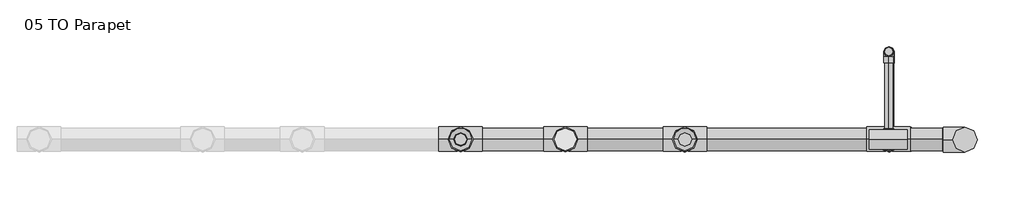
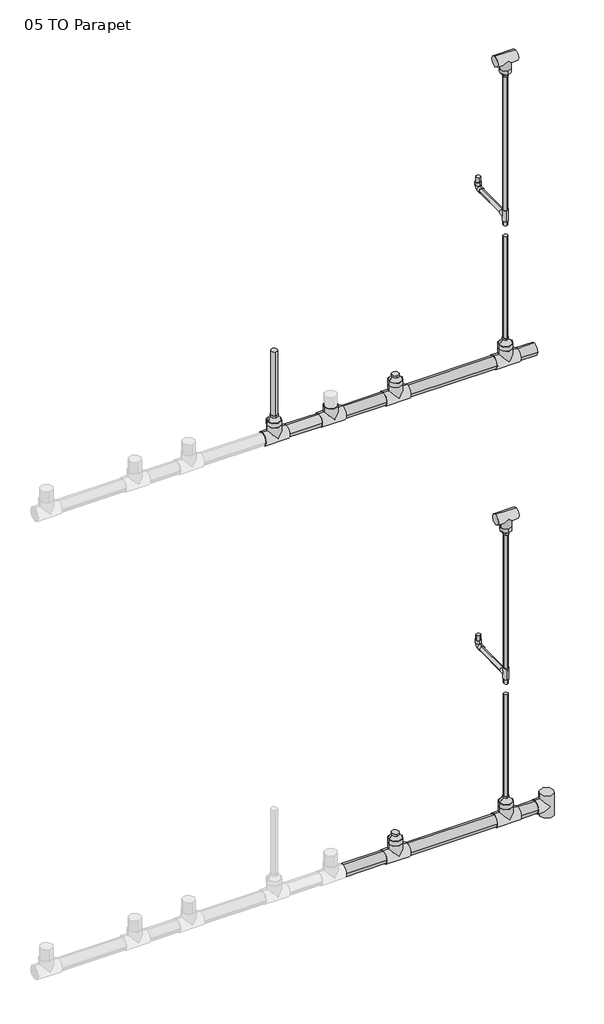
# One storey, part 2 of 2: 20 pipe fittings, 18 pipe segments.
"""IFC4 building model written with IfcOpenShell, lengths in millimetres."""

from ifc_helpers import new_model, si_unit, point, frame, frame_2d, origin, place, context, project, spatial, circle_curve, trimmed, segment, composite_curve, outline, extrude, transform, mapped, element, save
from components import elbow_pvc_sch_40_standard_2ea8bc13, reducer_pvc_sch_40_dwv_standard_07db09cb, reducer_pvc_sch_40_dwv_standard_9c0d98a8, reducer_pvc_sch_40_dwv_standard_cf29b970, tee_pvc_sch_40_standard_5c3f4d2b, tee_pvc_sch_40_standard_9c13fb8e, tee_pvc_sch_40_standard_9261842d

model = new_model("IFC4")

# Units and contexts
model_context = context("Model", 3, world=origin())
ifc_project = project(units=[si_unit("LENGTHUNIT", "METRE", prefix="MILLI")], contexts=[model_context])

# Site, building, storey
site = spatial("IfcSite", under=ifc_project)
building = spatial("IfcBuilding", under=site)
storey = spatial("IfcBuildingStorey", under=building, Name="05 TO Parapet", Elevation=15240.0)

# Pipe fittings
placement = place(None, origin())
elbow_pvc_sch_40_standard_shape = elbow_pvc_sch_40_standard_2ea8bc13(model_context)
element("IfcPipeFitting", 1, ObjectType="Elbow - PVC - Sch 40 : Standard", at=placement, inside=storey, context=model_context, shape_type="MappedRepresentation", body=[
    mapped(elbow_pvc_sch_40_standard_shape, transform((-12626.6118429, -3991.9703325, 5176.4703954), x_axis=(0.0, 0.9999457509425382, 0.010416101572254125), y_axis=(0.0, -0.010416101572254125, 0.9999457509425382), z_axis=(1.0, 0.0, 0.0))),
])
element("IfcPipeFitting", 2, ObjectType="Elbow - PVC - Sch 40 : Standard", at=placement, inside=storey, context=model_context, shape_type="MappedRepresentation", body=[
    mapped(elbow_pvc_sch_40_standard_shape, transform((-12630.4062469, -3991.9703325, 9748.4703954), x_axis=(0.0, 0.9999457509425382, 0.010416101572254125), y_axis=(0.0, -0.010416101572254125, 0.9999457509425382), z_axis=(1.0, 0.0, 0.0))),
])
reducer_pvc_sch_40_dwv_standard_shape = reducer_pvc_sch_40_dwv_standard_07db09cb(model_context)
element("IfcPipeFitting", 3, ObjectType="Reducer - PVC - Sch 40 - DWV : Standard", at=placement, inside=storey, context=model_context, shape_type="MappedRepresentation", body=[
    mapped(reducer_pvc_sch_40_dwv_standard_shape, transform((-13669.7542617, -4439.7857603, 3851.0056513), x_axis=(0.0, 0.0, 1.0), y_axis=(1.0, 0.0, 0.0), z_axis=(0.0, 1.0, 0.0))),
])
element("IfcPipeFitting", 4, ObjectType="Reducer - PVC - Sch 40 - DWV : Standard", at=placement, inside=storey, context=model_context, shape_type="MappedRepresentation", body=[
    mapped(reducer_pvc_sch_40_dwv_standard_shape, transform((-13669.7542617, -4439.7857603, 8423.0056513), x_axis=(0.0, 0.0, 1.0), y_axis=(1.0, 0.0, 0.0), z_axis=(0.0, 1.0, 0.0))),
])
element("IfcPipeFitting", 5, ObjectType="Reducer - PVC - Sch 40 - DWV : Standard", at=placement, inside=storey, context=model_context, shape_type="MappedRepresentation", body=[
    mapped(reducer_pvc_sch_40_dwv_standard_shape, transform((-14812.7542617, -4439.7857603, 8423.0056513), x_axis=(0.0, 0.0, 1.0), y_axis=(1.0, 0.0, 0.0), z_axis=(0.0, 1.0, 0.0))),
])
reducer_pvc_sch_40_dwv_standard_2_shape = reducer_pvc_sch_40_dwv_standard_9c0d98a8(model_context)
element("IfcPipeFitting", 6, ObjectType="Reducer - PVC - Sch 40 - DWV : Standard", at=placement, inside=storey, context=model_context, shape_type="MappedRepresentation", body=[
    mapped(reducer_pvc_sch_40_dwv_standard_2_shape, transform((-12626.6118429, -4439.7857603, 3851.0056513), x_axis=(0.0, 0.0, 1.0), y_axis=(1.0, 0.0, 0.0), z_axis=(0.0, 1.0, 0.0))),
])
element("IfcPipeFitting", 7, ObjectType="Reducer - PVC - Sch 40 - DWV : Standard", at=placement, inside=storey, context=model_context, shape_type="MappedRepresentation", body=[
    mapped(reducer_pvc_sch_40_dwv_standard_2_shape, transform((-12630.4062469, -4439.7857603, 8423.0056513), x_axis=(0.0, 0.0, 1.0), y_axis=(1.0, 0.0, 0.0), z_axis=(0.0, 1.0, 0.0))),
])
reducer_pvc_sch_40_dwv_standard_3_shape = reducer_pvc_sch_40_dwv_standard_cf29b970(model_context)
element("IfcPipeFitting", 8, ObjectType="Reducer - PVC - Sch 40 - DWV : Standard", at=placement, inside=storey, context=model_context, shape_type="MappedRepresentation", body=[
    mapped(reducer_pvc_sch_40_dwv_standard_3_shape, transform((-12626.6118429, -4439.7857603, 6638.925), x_axis=(0.0, 0.0, -1.0), y_axis=(0.0, -1.0, 0.0), z_axis=(-1.0, 0.0, 0.0))),
])
element("IfcPipeFitting", 9, ObjectType="Reducer - PVC - Sch 40 - DWV : Standard", at=placement, inside=storey, context=model_context, shape_type="MappedRepresentation", body=[
    mapped(reducer_pvc_sch_40_dwv_standard_3_shape, transform((-12630.4062469, -4439.7857603, 11210.925), x_axis=(0.0, 0.0, -1.0), y_axis=(0.0, -1.0, 0.0), z_axis=(-1.0, 0.0, 0.0))),
])
tee_pvc_sch_40_standard_shape = tee_pvc_sch_40_standard_5c3f4d2b(model_context)
element("IfcPipeFitting", 10, ObjectType="Tee - PVC - Sch 40 : Standard", at=placement, inside=storey, context=model_context, shape_type="MappedRepresentation", body=[
    mapped(tee_pvc_sch_40_standard_shape, transform((-13669.7542617, -4439.7857603, 3739.8806513), x_axis=(-1.0, 0.0, 0.0), y_axis=(0.0, 0.0, -1.0), z_axis=(0.0, -1.0, 0.0))),
])
element("IfcPipeFitting", 11, ObjectType="Tee - PVC - Sch 40 : Standard", at=placement, inside=storey, context=model_context, shape_type="MappedRepresentation", body=[
    mapped(tee_pvc_sch_40_standard_shape, transform((-12626.6118429, -4439.7857603, 3739.8806513), x_axis=(-1.0, 0.0, 0.0), y_axis=(0.0, 0.0, -1.0), z_axis=(0.0, -1.0, 0.0))),
])
element("IfcPipeFitting", 12, ObjectType="Tee - PVC - Sch 40 : Standard", at=placement, inside=storey, context=model_context, shape_type="MappedRepresentation", body=[
    mapped(tee_pvc_sch_40_standard_shape, transform((-12241.2148778, -4439.7857603, 3739.8806513), x_axis=(0.0, 0.0, 1.0), y_axis=(1.0, 0.0, 0.0), z_axis=(0.0, 1.0, 0.0))),
])
element("IfcPipeFitting", 13, ObjectType="Tee - PVC - Sch 40 : Standard", at=placement, inside=storey, context=model_context, shape_type="MappedRepresentation", body=[
    mapped(tee_pvc_sch_40_standard_shape, transform((-14278.7262962, -4439.7857603, 8311.8806513), x_axis=(-1.0, 0.0, 0.0), y_axis=(0.0, 0.0, -1.0), z_axis=(0.0, -1.0, 0.0))),
])
element("IfcPipeFitting", 14, ObjectType="Tee - PVC - Sch 40 : Standard", at=placement, inside=storey, context=model_context, shape_type="MappedRepresentation", body=[
    mapped(tee_pvc_sch_40_standard_shape, transform((-13669.7542617, -4439.7857603, 8311.8806513), x_axis=(-1.0, 0.0, 0.0), y_axis=(0.0, 0.0, -1.0), z_axis=(0.0, -1.0, 0.0))),
])
element("IfcPipeFitting", 15, ObjectType="Tee - PVC - Sch 40 : Standard", at=placement, inside=storey, context=model_context, shape_type="MappedRepresentation", body=[
    mapped(tee_pvc_sch_40_standard_shape, transform((-14812.7542617, -4439.7857603, 8311.8806513), x_axis=(-1.0, 0.0, 0.0), y_axis=(0.0, 0.0, -1.0), z_axis=(0.0, -1.0, 0.0))),
])
element("IfcPipeFitting", 16, ObjectType="Tee - PVC - Sch 40 : Standard", at=placement, inside=storey, context=model_context, shape_type="MappedRepresentation", body=[
    mapped(tee_pvc_sch_40_standard_shape, transform((-12630.4062469, -4439.7857603, 8311.8806513), x_axis=(-1.0, 0.0, 0.0), y_axis=(0.0, 0.0, -1.0), z_axis=(0.0, -1.0, 0.0))),
])
tee_pvc_sch_40_standard_2_shape = tee_pvc_sch_40_standard_9c13fb8e(model_context)
element("IfcPipeFitting", 17, ObjectType="Tee - PVC - Sch 40 : Standard", at=placement, inside=storey, context=model_context, shape_type="MappedRepresentation", body=[
    mapped(tee_pvc_sch_40_standard_2_shape, transform((-12626.6118429, -4439.7857603, 5171.8056513), x_axis=(0.0, 0.0, 1.0), y_axis=(0.0, -1.0, 0.0), z_axis=(1.0, 0.0, 0.0))),
])
element("IfcPipeFitting", 18, ObjectType="Tee - PVC - Sch 40 : Standard", at=placement, inside=storey, context=model_context, shape_type="MappedRepresentation", body=[
    mapped(tee_pvc_sch_40_standard_2_shape, transform((-12630.4062469, -4439.7857603, 9743.8056513), x_axis=(0.0, 0.0, 1.0), y_axis=(0.0, -1.0, 0.0), z_axis=(1.0, 0.0, 0.0))),
])
tee_pvc_sch_40_standard_3_shape = tee_pvc_sch_40_standard_9261842d(model_context)
element("IfcPipeFitting", 19, ObjectType="Tee - PVC - Sch 40 : Standard", at=placement, inside=storey, context=model_context, shape_type="MappedRepresentation", body=[
    mapped(tee_pvc_sch_40_standard_3_shape, transform((-12625.7576088, -4439.7857603, 6735.7752), x_axis=(-1.0, 0.0, 0.0), y_axis=(0.0, 0.0, 1.0), z_axis=(0.0, 1.0, 0.0))),
])
element("IfcPipeFitting", 20, ObjectType="Tee - PVC - Sch 40 : Standard", at=placement, inside=storey, context=model_context, shape_type="MappedRepresentation", body=[
    mapped(tee_pvc_sch_40_standard_3_shape, transform((-12632.6299907, -4439.7857603, 11307.7752), x_axis=(-1.0, 0.0, 0.0), y_axis=(0.0, 0.0, 1.0), z_axis=(0.0, 1.0, 0.0))),
])

# Pipe segments
element("IfcPipeSegment", 21, ObjectType="Standard", at=placement, inside=storey, context=model_context, shape_type="SweptSolid", body=[
    extrude(outline(composite_curve([segment(trimmed(circle_curve(frame_2d((-4439.7857603, 3739.8806513)), 57.15), [point((-4496.9357603, 3739.8806513))], [point((-4439.7857603, 3797.0306513))], False, "CARTESIAN"), True, "CONTINUOUS"), segment(trimmed(circle_curve(frame_2d((-4439.7857603, 3739.8806513)), 57.15), [point((-4439.7857603, 3797.0306513))], [point((-4382.6357603, 3739.8806513))], False, "CARTESIAN"), True, "CONTINUOUS"), segment(trimmed(circle_curve(frame_2d((-4439.7857603, 3739.8806513)), 57.15), [point((-4382.6357603, 3739.8806513))], [point((-4439.7857603, 3682.7306513))], False, "CARTESIAN"), True, "CONTINUOUS"), segment(trimmed(circle_curve(frame_2d((-4439.7857603, 3739.8806513)), 57.15), [point((-4439.7857603, 3682.7306513))], [point((-4496.9357603, 3739.8806513))], False, "CARTESIAN"), True, "CONTINUOUS")], self_intersect=False)), frame((-14167.6012962, 0.0, 0.0), z_axis=(1.0, 0.0, 0.0), x_axis=(0.0, 1.0, 0.0)), (0.0, 0.0, 1.0), 386.7220345),
])
element("IfcPipeSegment", 22, ObjectType="Standard", at=placement, inside=storey, context=model_context, shape_type="SweptSolid", body=[
    extrude(outline(composite_curve([segment(trimmed(circle_curve(frame_2d((-4439.7857603, 3739.8806513)), 57.15), [point((-4496.9357603, 3739.8806513))], [point((-4439.7857603, 3797.0306513))], False, "CARTESIAN"), True, "CONTINUOUS"), segment(trimmed(circle_curve(frame_2d((-4439.7857603, 3739.8806513)), 57.15), [point((-4439.7857603, 3797.0306513))], [point((-4382.6357603, 3739.8806513))], False, "CARTESIAN"), True, "CONTINUOUS"), segment(trimmed(circle_curve(frame_2d((-4439.7857603, 3739.8806513)), 57.15), [point((-4382.6357603, 3739.8806513))], [point((-4439.7857603, 3682.7306513))], False, "CARTESIAN"), True, "CONTINUOUS"), segment(trimmed(circle_curve(frame_2d((-4439.7857603, 3739.8806513)), 57.15), [point((-4439.7857603, 3682.7306513))], [point((-4496.9357603, 3739.8806513))], False, "CARTESIAN"), True, "CONTINUOUS")], self_intersect=False)), frame((-12515.4868429, 0.0, 0.0), z_axis=(1.0, 0.0, 0.0), x_axis=(0.0, 1.0, 0.0)), (0.0, 0.0, 1.0), 163.146965),
])
element("IfcPipeSegment", 23, ObjectType="Standard", at=placement, inside=storey, context=model_context, shape_type="SweptSolid", body=[
    extrude(outline(composite_curve([segment(trimmed(circle_curve(frame_2d((-4439.7857603, 3739.8806513)), 57.15), [point((-4496.9357603, 3739.8806513))], [point((-4439.7857603, 3797.0306513))], False, "CARTESIAN"), True, "CONTINUOUS"), segment(trimmed(circle_curve(frame_2d((-4439.7857603, 3739.8806513)), 57.15), [point((-4439.7857603, 3797.0306513))], [point((-4382.6357603, 3739.8806513))], False, "CARTESIAN"), True, "CONTINUOUS"), segment(trimmed(circle_curve(frame_2d((-4439.7857603, 3739.8806513)), 57.15), [point((-4382.6357603, 3739.8806513))], [point((-4439.7857603, 3682.7306513))], False, "CARTESIAN"), True, "CONTINUOUS"), segment(trimmed(circle_curve(frame_2d((-4439.7857603, 3739.8806513)), 57.15), [point((-4439.7857603, 3682.7306513))], [point((-4496.9357603, 3739.8806513))], False, "CARTESIAN"), True, "CONTINUOUS")], self_intersect=False)), frame((-13558.6292617, 0.0, 0.0), z_axis=(1.0, 0.0, 0.0), x_axis=(0.0, 1.0, 0.0)), (0.0, 0.0, 1.0), 820.8924188),
])
element("IfcPipeSegment", 24, ObjectType="Standard", at=placement, inside=storey, context=model_context, shape_type="SweptSolid", body=[
    extrude(outline(composite_curve([segment(trimmed(circle_curve(frame_2d((-12626.6118429, -4439.7857603)), 21.034375), [point((-12647.6462179, -4439.7857603))], [point((-12626.6118429, -4418.7513853))], False, "CARTESIAN"), True, "CONTINUOUS"), segment(trimmed(circle_curve(frame_2d((-12626.6118429, -4439.7857603)), 21.034375), [point((-12626.6118429, -4418.7513853))], [point((-12605.5774679, -4439.7857603))], False, "CARTESIAN"), True, "CONTINUOUS"), segment(trimmed(circle_curve(frame_2d((-12626.6118429, -4439.7857603)), 21.034375), [point((-12605.5774679, -4439.7857603))], [point((-12626.6118429, -4460.8201353))], False, "CARTESIAN"), True, "CONTINUOUS"), segment(trimmed(circle_curve(frame_2d((-12626.6118429, -4439.7857603)), 21.034375), [point((-12626.6118429, -4460.8201353))], [point((-12647.6462179, -4439.7857603))], False, "CARTESIAN"), True, "CONTINUOUS")], self_intersect=False)), frame((0.0, 0.0, 5073.65), z_axis=(0.0, 0.0, 1.0), x_axis=(1.0, 0.0, 0.0)), (0.0, 0.0, 1.0), 44.1806513),
])
element("IfcPipeSegment", 25, ObjectType="Standard", at=placement, inside=storey, context=model_context, shape_type="SweptSolid", body=[
    extrude(outline(composite_curve([segment(trimmed(circle_curve(frame_2d((0.0, 21.034375)), 21.034375), [point((21.034375, 21.034375))], [point((0.0, 0.0))], False, "CARTESIAN"), True, "CONTINUOUS"), segment(trimmed(circle_curve(frame_2d((0.0, 21.034375)), 21.034375), [point((0.0, 0.0))], [point((-21.034375, 21.034375))], False, "CARTESIAN"), True, "CONTINUOUS"), segment(trimmed(circle_curve(frame_2d((0.0, 21.034375)), 21.034375), [point((-21.034375, 21.034375))], [point((0.0, 42.06875))], False, "CARTESIAN"), True, "CONTINUOUS"), segment(trimmed(circle_curve(frame_2d((0.0, 21.034375)), 21.034375), [point((0.0, 42.06875))], [point((21.034375, 21.034375))], False, "CARTESIAN"), True, "CONTINUOUS")], self_intersect=False)), frame((-12626.6118429, -4386.0327846, 5193.4010943), z_axis=(0.0, 0.9999457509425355, 0.01041610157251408), x_axis=(1.0, 0.0, 0.0)), (0.0, 0.0, 1.0), 336.1924031),
])
element("IfcPipeSegment", 26, ObjectType="Standard", at=placement, inside=storey, context=model_context, shape_type="SweptSolid", body=[
    extrude(outline(composite_curve([segment(trimmed(circle_curve(frame_2d((-12626.6118429, -3991.9703325)), 21.034375), [point((-12605.5774679, -3991.9703325))], [point((-12626.6118429, -4013.0047075))], False, "CARTESIAN"), True, "CONTINUOUS"), segment(trimmed(circle_curve(frame_2d((-12626.6118429, -3991.9703325)), 21.034375), [point((-12626.6118429, -4013.0047075))], [point((-12647.6462179, -3991.9703325))], False, "CARTESIAN"), True, "CONTINUOUS"), segment(trimmed(circle_curve(frame_2d((-12626.6118429, -3991.9703325)), 21.034375), [point((-12647.6462179, -3991.9703325))], [point((-12626.6118429, -3970.9359575))], False, "CARTESIAN"), True, "CONTINUOUS"), segment(trimmed(circle_curve(frame_2d((-12626.6118429, -3991.9703325)), 21.034375), [point((-12626.6118429, -3970.9359575))], [point((-12605.5774679, -3991.9703325))], False, "CARTESIAN"), True, "CONTINUOUS")], self_intersect=False)), frame((0.0, 0.0, 5234.1427149), z_axis=(0.0, 0.0, 1.0), x_axis=(1.0, 0.0, 0.0)), (0.0, 0.0, 1.0), 49.0572851),
])
element("IfcPipeSegment", 27, ObjectType="Standard", at=placement, inside=storey, context=model_context, shape_type="SweptSolid", body=[
    extrude(outline(composite_curve([segment(trimmed(circle_curve(frame_2d((-12626.6118429, -4439.7857603)), 21.034375), [point((-12647.6462179, -4439.7857603))], [point((-12626.6118429, -4418.7513853))], False, "CARTESIAN"), True, "CONTINUOUS"), segment(trimmed(circle_curve(frame_2d((-12626.6118429, -4439.7857603)), 21.034375), [point((-12626.6118429, -4418.7513853))], [point((-12605.5774679, -4439.7857603))], False, "CARTESIAN"), True, "CONTINUOUS"), segment(trimmed(circle_curve(frame_2d((-12626.6118429, -4439.7857603)), 21.034375), [point((-12605.5774679, -4439.7857603))], [point((-12626.6118429, -4460.8201353))], False, "CARTESIAN"), True, "CONTINUOUS"), segment(trimmed(circle_curve(frame_2d((-12626.6118429, -4439.7857603)), 21.034375), [point((-12626.6118429, -4460.8201353))], [point((-12647.6462179, -4439.7857603))], False, "CARTESIAN"), True, "CONTINUOUS")], self_intersect=False)), frame((0.0, 0.0, 3952.1492451), z_axis=(0.0, 0.0, 1.0), x_axis=(1.0, 0.0, 0.0)), (0.0, 0.0, 1.0), 1013.5507549),
])
element("IfcPipeSegment", 28, ObjectType="Standard", at=placement, inside=storey, context=model_context, shape_type="SweptSolid", body=[
    extrude(outline(composite_curve([segment(trimmed(circle_curve(frame_2d((-12626.6118429, -4439.7857603)), 21.034375), [point((-12605.5774679, -4439.7857603))], [point((-12626.6118429, -4460.8201353))], False, "CARTESIAN"), True, "CONTINUOUS"), segment(trimmed(circle_curve(frame_2d((-12626.6118429, -4439.7857603)), 21.034375), [point((-12626.6118429, -4460.8201353))], [point((-12647.6462179, -4439.7857603))], False, "CARTESIAN"), True, "CONTINUOUS"), segment(trimmed(circle_curve(frame_2d((-12626.6118429, -4439.7857603)), 21.034375), [point((-12647.6462179, -4439.7857603))], [point((-12626.6118429, -4418.7513853))], False, "CARTESIAN"), True, "CONTINUOUS"), segment(trimmed(circle_curve(frame_2d((-12626.6118429, -4439.7857603)), 21.034375), [point((-12626.6118429, -4418.7513853))], [point((-12605.5774679, -4439.7857603))], False, "CARTESIAN"), True, "CONTINUOUS")], self_intersect=False)), frame((0.0, 0.0, 5225.7806513), z_axis=(0.0, 0.0, 1.0), x_axis=(1.0, 0.0, 0.0)), (0.0, 0.0, 1.0), 1336.1307549),
])
element("IfcPipeSegment", 29, ObjectType="Standard", at=placement, inside=storey, context=model_context, shape_type="SweptSolid", body=[
    extrude(outline(composite_curve([segment(trimmed(circle_curve(frame_2d((-4439.7857603, 8311.8806513)), 57.15), [point((-4382.6357603, 8311.8806513))], [point((-4439.7857603, 8254.7306513))], False, "CARTESIAN"), True, "CONTINUOUS"), segment(trimmed(circle_curve(frame_2d((-4439.7857603, 8311.8806513)), 57.15), [point((-4439.7857603, 8254.7306513))], [point((-4496.9357603, 8311.8806513))], False, "CARTESIAN"), True, "CONTINUOUS"), segment(trimmed(circle_curve(frame_2d((-4439.7857603, 8311.8806513)), 57.15), [point((-4496.9357603, 8311.8806513))], [point((-4439.7857603, 8369.0306513))], False, "CARTESIAN"), True, "CONTINUOUS"), segment(trimmed(circle_curve(frame_2d((-4439.7857603, 8311.8806513)), 57.15), [point((-4439.7857603, 8369.0306513))], [point((-4382.6357603, 8311.8806513))], False, "CARTESIAN"), True, "CONTINUOUS")], self_intersect=False)), frame((-14701.6292617, 0.0, 0.0), z_axis=(1.0, 0.0, 0.0), x_axis=(0.0, 1.0, 0.0)), (0.0, 0.0, 1.0), 311.7779655),
])
element("IfcPipeSegment", 30, ObjectType="Standard", at=placement, inside=storey, context=model_context, shape_type="SweptSolid", body=[
    extrude(outline(composite_curve([segment(trimmed(circle_curve(frame_2d((-4439.7857603, 8311.8806513)), 57.15), [point((-4496.9357603, 8311.8806513))], [point((-4439.7857603, 8369.0306513))], False, "CARTESIAN"), True, "CONTINUOUS"), segment(trimmed(circle_curve(frame_2d((-4439.7857603, 8311.8806513)), 57.15), [point((-4439.7857603, 8369.0306513))], [point((-4382.6357603, 8311.8806513))], False, "CARTESIAN"), True, "CONTINUOUS"), segment(trimmed(circle_curve(frame_2d((-4439.7857603, 8311.8806513)), 57.15), [point((-4382.6357603, 8311.8806513))], [point((-4439.7857603, 8254.7306513))], False, "CARTESIAN"), True, "CONTINUOUS"), segment(trimmed(circle_curve(frame_2d((-4439.7857603, 8311.8806513)), 57.15), [point((-4439.7857603, 8254.7306513))], [point((-4496.9357603, 8311.8806513))], False, "CARTESIAN"), True, "CONTINUOUS")], self_intersect=False)), frame((-14167.6012962, 0.0, 0.0), z_axis=(1.0, 0.0, 0.0), x_axis=(0.0, 1.0, 0.0)), (0.0, 0.0, 1.0), 386.7220345),
])
element("IfcPipeSegment", 31, ObjectType="Standard", at=placement, inside=storey, context=model_context, shape_type="SweptSolid", body=[
    extrude(outline(composite_curve([segment(trimmed(circle_curve(frame_2d((-14812.7542617, -4439.7857603)), 30.1625), [point((-14842.9167617, -4439.7857603))], [point((-14812.7542617, -4409.6232603))], False, "CARTESIAN"), True, "CONTINUOUS"), segment(trimmed(circle_curve(frame_2d((-14812.7542617, -4439.7857603)), 30.1625), [point((-14812.7542617, -4409.6232603))], [point((-14782.5917617, -4439.7857603))], False, "CARTESIAN"), True, "CONTINUOUS"), segment(trimmed(circle_curve(frame_2d((-14812.7542617, -4439.7857603)), 30.1625), [point((-14782.5917617, -4439.7857603))], [point((-14812.7542617, -4469.9482603))], False, "CARTESIAN"), True, "CONTINUOUS"), segment(trimmed(circle_curve(frame_2d((-14812.7542617, -4439.7857603)), 30.1625), [point((-14812.7542617, -4469.9482603))], [point((-14842.9167617, -4439.7857603))], False, "CARTESIAN"), True, "CONTINUOUS")], self_intersect=False)), frame((0.0, 0.0, 8521.4306513), z_axis=(0.0, 0.0, 1.0), x_axis=(1.0, 0.0, 0.0)), (0.0, 0.0, 1.0), 634.2992946),
])
element("IfcPipeSegment", 32, ObjectType="Standard", at=placement, inside=storey, context=model_context, shape_type="SweptSolid", body=[
    extrude(outline(composite_curve([segment(trimmed(circle_curve(frame_2d((-4439.7857603, 8311.8806513)), 57.15), [point((-4496.9357603, 8311.8806513))], [point((-4439.7857603, 8369.0306513))], False, "CARTESIAN"), True, "CONTINUOUS"), segment(trimmed(circle_curve(frame_2d((-4439.7857603, 8311.8806513)), 57.15), [point((-4439.7857603, 8369.0306513))], [point((-4382.6357603, 8311.8806513))], False, "CARTESIAN"), True, "CONTINUOUS"), segment(trimmed(circle_curve(frame_2d((-4439.7857603, 8311.8806513)), 57.15), [point((-4382.6357603, 8311.8806513))], [point((-4439.7857603, 8254.7306513))], False, "CARTESIAN"), True, "CONTINUOUS"), segment(trimmed(circle_curve(frame_2d((-4439.7857603, 8311.8806513)), 57.15), [point((-4439.7857603, 8254.7306513))], [point((-4496.9357603, 8311.8806513))], False, "CARTESIAN"), True, "CONTINUOUS")], self_intersect=False)), frame((-12519.2812469, 0.0, 0.0), z_axis=(1.0, 0.0, 0.0), x_axis=(0.0, 1.0, 0.0)), (0.0, 0.0, 1.0), 161.372419),
])
element("IfcPipeSegment", 33, ObjectType="Standard", at=placement, inside=storey, context=model_context, shape_type="SweptSolid", body=[
    extrude(outline(composite_curve([segment(trimmed(circle_curve(frame_2d((-4439.7857603, 8311.8806513)), 57.15), [point((-4496.9357603, 8311.8806513))], [point((-4439.7857603, 8369.0306513))], False, "CARTESIAN"), True, "CONTINUOUS"), segment(trimmed(circle_curve(frame_2d((-4439.7857603, 8311.8806513)), 57.15), [point((-4439.7857603, 8369.0306513))], [point((-4382.6357603, 8311.8806513))], False, "CARTESIAN"), True, "CONTINUOUS"), segment(trimmed(circle_curve(frame_2d((-4439.7857603, 8311.8806513)), 57.15), [point((-4382.6357603, 8311.8806513))], [point((-4439.7857603, 8254.7306513))], False, "CARTESIAN"), True, "CONTINUOUS"), segment(trimmed(circle_curve(frame_2d((-4439.7857603, 8311.8806513)), 57.15), [point((-4439.7857603, 8254.7306513))], [point((-4496.9357603, 8311.8806513))], False, "CARTESIAN"), True, "CONTINUOUS")], self_intersect=False)), frame((-13558.6292617, 0.0, 0.0), z_axis=(1.0, 0.0, 0.0), x_axis=(0.0, 1.0, 0.0)), (0.0, 0.0, 1.0), 817.0980148),
])
element("IfcPipeSegment", 34, ObjectType="Standard", at=placement, inside=storey, context=model_context, shape_type="SweptSolid", body=[
    extrude(outline(composite_curve([segment(trimmed(circle_curve(frame_2d((-12630.4062469, -4439.7857603)), 21.034375), [point((-12651.4406219, -4439.7857603))], [point((-12630.4062469, -4418.7513853))], False, "CARTESIAN"), True, "CONTINUOUS"), segment(trimmed(circle_curve(frame_2d((-12630.4062469, -4439.7857603)), 21.034375), [point((-12630.4062469, -4418.7513853))], [point((-12609.3718719, -4439.7857603))], False, "CARTESIAN"), True, "CONTINUOUS"), segment(trimmed(circle_curve(frame_2d((-12630.4062469, -4439.7857603)), 21.034375), [point((-12609.3718719, -4439.7857603))], [point((-12630.4062469, -4460.8201353))], False, "CARTESIAN"), True, "CONTINUOUS"), segment(trimmed(circle_curve(frame_2d((-12630.4062469, -4439.7857603)), 21.034375), [point((-12630.4062469, -4460.8201353))], [point((-12651.4406219, -4439.7857603))], False, "CARTESIAN"), True, "CONTINUOUS")], self_intersect=False)), frame((0.0, 0.0, 9645.65), z_axis=(0.0, 0.0, 1.0), x_axis=(1.0, 0.0, 0.0)), (0.0, 0.0, 1.0), 44.1806513),
])
element("IfcPipeSegment", 35, ObjectType="Standard", at=placement, inside=storey, context=model_context, shape_type="SweptSolid", body=[
    extrude(outline(composite_curve([segment(trimmed(circle_curve(frame_2d((0.0, 21.034375)), 21.034375), [point((21.034375, 21.034375))], [point((0.0, 0.0))], False, "CARTESIAN"), True, "CONTINUOUS"), segment(trimmed(circle_curve(frame_2d((0.0, 21.034375)), 21.034375), [point((0.0, 0.0))], [point((-21.034375, 21.034375))], False, "CARTESIAN"), True, "CONTINUOUS"), segment(trimmed(circle_curve(frame_2d((0.0, 21.034375)), 21.034375), [point((-21.034375, 21.034375))], [point((0.0, 42.06875))], False, "CARTESIAN"), True, "CONTINUOUS"), segment(trimmed(circle_curve(frame_2d((0.0, 21.034375)), 21.034375), [point((0.0, 42.06875))], [point((21.034375, 21.034375))], False, "CARTESIAN"), True, "CONTINUOUS")], self_intersect=False)), frame((-12630.4062469, -4386.0327846, 9765.4010943), z_axis=(0.0, 0.9999457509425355, 0.010416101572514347), x_axis=(1.0, 0.0, 0.0)), (0.0, 0.0, 1.0), 336.1924031),
])
element("IfcPipeSegment", 36, ObjectType="Standard", at=placement, inside=storey, context=model_context, shape_type="SweptSolid", body=[
    extrude(outline(composite_curve([segment(trimmed(circle_curve(frame_2d((-12630.4062469, -3991.9703325)), 21.034375), [point((-12609.3718719, -3991.9703325))], [point((-12630.4062469, -4013.0047075))], False, "CARTESIAN"), True, "CONTINUOUS"), segment(trimmed(circle_curve(frame_2d((-12630.4062469, -3991.9703325)), 21.034375), [point((-12630.4062469, -4013.0047075))], [point((-12651.4406219, -3991.9703325))], False, "CARTESIAN"), True, "CONTINUOUS"), segment(trimmed(circle_curve(frame_2d((-12630.4062469, -3991.9703325)), 21.034375), [point((-12651.4406219, -3991.9703325))], [point((-12630.4062469, -3970.9359575))], False, "CARTESIAN"), True, "CONTINUOUS"), segment(trimmed(circle_curve(frame_2d((-12630.4062469, -3991.9703325)), 21.034375), [point((-12630.4062469, -3970.9359575))], [point((-12609.3718719, -3991.9703325))], False, "CARTESIAN"), True, "CONTINUOUS")], self_intersect=False)), frame((0.0, 0.0, 9806.1427149), z_axis=(0.0, 0.0, 1.0), x_axis=(1.0, 0.0, 0.0)), (0.0, 0.0, 1.0), 49.0572851),
])
element("IfcPipeSegment", 37, ObjectType="Standard", at=placement, inside=storey, context=model_context, shape_type="SweptSolid", body=[
    extrude(outline(composite_curve([segment(trimmed(circle_curve(frame_2d((-12630.4062469, -4439.7857603)), 21.034375), [point((-12651.4406219, -4439.7857603))], [point((-12630.4062469, -4418.7513853))], False, "CARTESIAN"), True, "CONTINUOUS"), segment(trimmed(circle_curve(frame_2d((-12630.4062469, -4439.7857603)), 21.034375), [point((-12630.4062469, -4418.7513853))], [point((-12609.3718719, -4439.7857603))], False, "CARTESIAN"), True, "CONTINUOUS"), segment(trimmed(circle_curve(frame_2d((-12630.4062469, -4439.7857603)), 21.034375), [point((-12609.3718719, -4439.7857603))], [point((-12630.4062469, -4460.8201353))], False, "CARTESIAN"), True, "CONTINUOUS"), segment(trimmed(circle_curve(frame_2d((-12630.4062469, -4439.7857603)), 21.034375), [point((-12630.4062469, -4460.8201353))], [point((-12651.4406219, -4439.7857603))], False, "CARTESIAN"), True, "CONTINUOUS")], self_intersect=False)), frame((0.0, 0.0, 8524.1492451), z_axis=(0.0, 0.0, 1.0), x_axis=(1.0, 0.0, 0.0)), (0.0, 0.0, 1.0), 1013.5507549),
])
element("IfcPipeSegment", 38, ObjectType="Standard", at=placement, inside=storey, context=model_context, shape_type="SweptSolid", body=[
    extrude(outline(composite_curve([segment(trimmed(circle_curve(frame_2d((-12630.4062469, -4439.7857603)), 21.034375), [point((-12609.3718719, -4439.7857603))], [point((-12630.4062469, -4460.8201353))], False, "CARTESIAN"), True, "CONTINUOUS"), segment(trimmed(circle_curve(frame_2d((-12630.4062469, -4439.7857603)), 21.034375), [point((-12630.4062469, -4460.8201353))], [point((-12651.4406219, -4439.7857603))], False, "CARTESIAN"), True, "CONTINUOUS"), segment(trimmed(circle_curve(frame_2d((-12630.4062469, -4439.7857603)), 21.034375), [point((-12651.4406219, -4439.7857603))], [point((-12630.4062469, -4418.7513853))], False, "CARTESIAN"), True, "CONTINUOUS"), segment(trimmed(circle_curve(frame_2d((-12630.4062469, -4439.7857603)), 21.034375), [point((-12630.4062469, -4418.7513853))], [point((-12609.3718719, -4439.7857603))], False, "CARTESIAN"), True, "CONTINUOUS")], self_intersect=False)), frame((0.0, 0.0, 9797.7806513), z_axis=(0.0, 0.0, 1.0), x_axis=(1.0, 0.0, 0.0)), (0.0, 0.0, 1.0), 1336.1307549),
])

save(model, "model.ifc")
